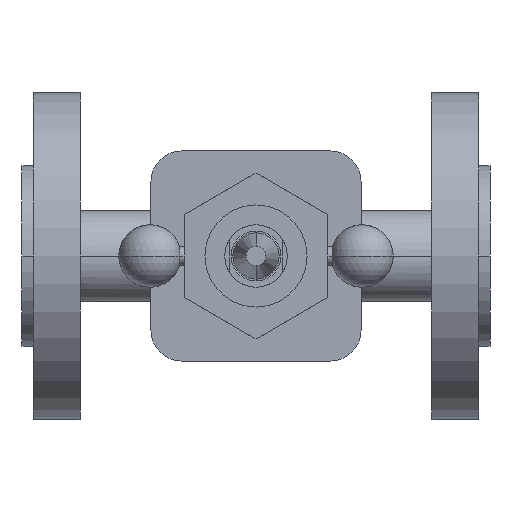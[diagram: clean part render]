
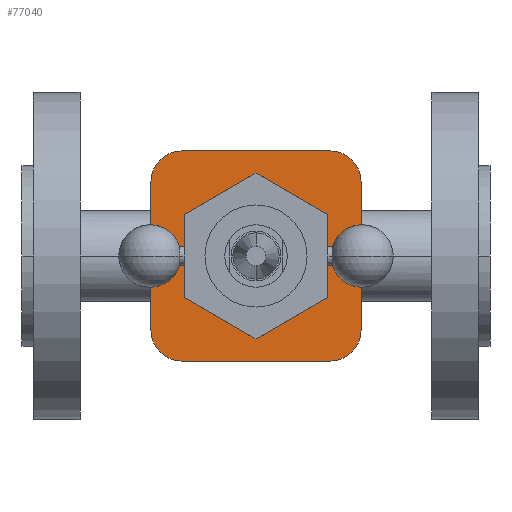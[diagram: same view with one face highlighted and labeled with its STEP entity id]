
A CAD part, front view. The second image highlights one B-rep face of the part: STEP entity #77040.
In plain terms, the highlighted planar face has unit normal (0, -1, 0).
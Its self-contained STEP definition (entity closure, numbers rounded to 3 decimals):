
#13820=CARTESIAN_POINT('',(54.,-62.,0.));
#13830=VERTEX_POINT('',#13820);
#13990=CARTESIAN_POINT('',(96.,-62.,0.));
#14000=VERTEX_POINT('',#13990);
#14030=CARTESIAN_POINT('',(75.,-62.,0.));
#14040=DIRECTION('',(0.,-1.,0.));
#14050=DIRECTION('',(-1.,0.,0.));
#14060=AXIS2_PLACEMENT_3D('',#14030,#14040,#14050);
#14070=CIRCLE('',#14060,21.);
#14080=EDGE_CURVE('',#13830,#14000,#14070,.T.);
#45940=CARTESIAN_POINT('',(108.688,-62.,23.688));
#45950=VERTEX_POINT('',#45940);
#46000=CARTESIAN_POINT('',(98.688,-62.,23.688));
#46010=DIRECTION('',(0.,-1.,0.));
#46020=DIRECTION('',(0.,0.,1.));
#46030=AXIS2_PLACEMENT_3D('',#46000,#46010,#46020);
#46040=CIRCLE('',#46030,10.);
#46050=CARTESIAN_POINT('',(98.688,-62.,33.688));
#46060=VERTEX_POINT('',#46050);
#46070=EDGE_CURVE('',#45950,#46060,#46040,.T.);
#50330=CARTESIAN_POINT('',(51.312,-62.,-33.688));
#50340=VERTEX_POINT('',#50330);
#50370=CARTESIAN_POINT('',(70.469,-62.,-33.688));
#50380=DIRECTION('',(1.,0.,0.));
#50390=VECTOR('',#50380,1.);
#50400=LINE('',#50370,#50390);
#50410=CARTESIAN_POINT('',(98.688,-62.,-33.688));
#50420=VERTEX_POINT('',#50410);
#50430=EDGE_CURVE('',#50340,#50420,#50400,.T.);
#56300=CARTESIAN_POINT('',(41.312,-62.,-23.688));
#56310=VERTEX_POINT('',#56300);
#56340=CARTESIAN_POINT('',(51.312,-62.,-23.688));
#56350=DIRECTION('',(0.,-1.,0.));
#56360=DIRECTION('',(0.,0.,-1.));
#56370=AXIS2_PLACEMENT_3D('',#56340,#56350,#56360);
#56380=CIRCLE('',#56370,10.);
#56390=EDGE_CURVE('',#56310,#50340,#56380,.T.);
#63180=CARTESIAN_POINT('',(98.688,-62.,-23.688));
#63190=DIRECTION('',(0.,-1.,0.));
#63200=DIRECTION('',(1.,0.,0.));
#63210=AXIS2_PLACEMENT_3D('',#63180,#63190,#63200);
#63220=CIRCLE('',#63210,10.);
#63230=CARTESIAN_POINT('',(108.688,-62.,-23.688));
#63240=VERTEX_POINT('',#63230);
#63250=EDGE_CURVE('',#50420,#63240,#63220,.T.);
#73300=CARTESIAN_POINT('',(51.312,-62.,33.688));
#73310=VERTEX_POINT('',#73300);
#73340=CARTESIAN_POINT('',(51.312,-62.,23.688));
#73350=DIRECTION('',(0.,-1.,0.));
#73360=DIRECTION('',(-1.,0.,0.));
#73370=AXIS2_PLACEMENT_3D('',#73340,#73350,#73360);
#73380=CIRCLE('',#73370,10.);
#73390=CARTESIAN_POINT('',(41.312,-62.,23.688));
#73400=VERTEX_POINT('',#73390);
#73410=EDGE_CURVE('',#73310,#73400,#73380,.T.);
#73660=CARTESIAN_POINT('',(46.781,-62.,33.688));
#73670=DIRECTION('',(-1.,0.,0.));
#73680=VECTOR('',#73670,1.);
#73690=LINE('',#73660,#73680);
#73700=EDGE_CURVE('',#46060,#73310,#73690,.T.);
#73900=CARTESIAN_POINT('',(41.312,-62.,-11.844));
#73910=DIRECTION('',(0.,0.,-1.));
#73920=VECTOR('',#73910,1.);
#73930=LINE('',#73900,#73920);
#73940=EDGE_CURVE('',#73400,#56310,#73930,.T.);
#76790=CARTESIAN_POINT('',(42.25,-62.,0.));
#76800=DIRECTION('',(0.,-1.,0.));
#76810=DIRECTION('',(-1.,0.,0.));
#76820=AXIS2_PLACEMENT_3D('',#76790,#76800,#76810);
#76830=PLANE('',#76820);
#76840=ORIENTED_EDGE('',*,*,#73410,.T.);
#76850=ORIENTED_EDGE('',*,*,#73700,.T.);
#76860=ORIENTED_EDGE('',*,*,#46070,.T.);
#76870=CARTESIAN_POINT('',(108.688,-62.,11.844));
#76880=DIRECTION('',(0.,0.,1.));
#76890=VECTOR('',#76880,1.);
#76900=LINE('',#76870,#76890);
#76910=EDGE_CURVE('',#63240,#45950,#76900,.T.);
#76920=ORIENTED_EDGE('',*,*,#76910,.T.);
#76930=ORIENTED_EDGE('',*,*,#63250,.T.);
#76940=ORIENTED_EDGE('',*,*,#50430,.T.);
#76950=ORIENTED_EDGE('',*,*,#56390,.T.);
#76960=ORIENTED_EDGE('',*,*,#73940,.T.);
#76970=EDGE_LOOP('',(#76960,#76950,#76940,#76930,#76920,#76860,#76850,
#76840));
#76980=FACE_OUTER_BOUND('',#76970,.T.);
#76990=EDGE_CURVE('',#14000,#13830,#14070,.T.);
#77000=ORIENTED_EDGE('',*,*,#76990,.F.);
#77010=ORIENTED_EDGE('',*,*,#14080,.F.);
#77020=EDGE_LOOP('',(#77010,#77000));
#77030=FACE_BOUND('',#77020,.T.);
#77040=ADVANCED_FACE('',(#76980,#77030),#76830,.T.);
